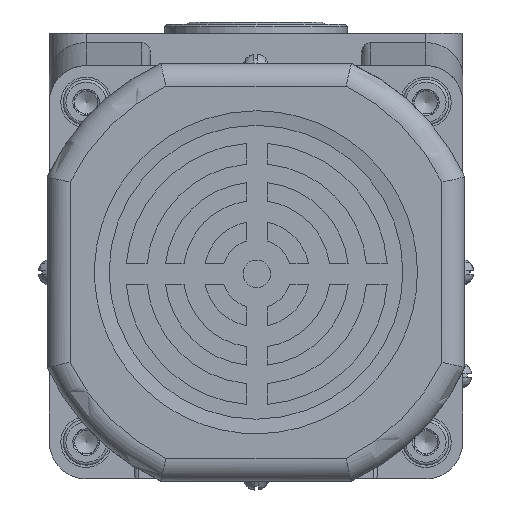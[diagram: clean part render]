
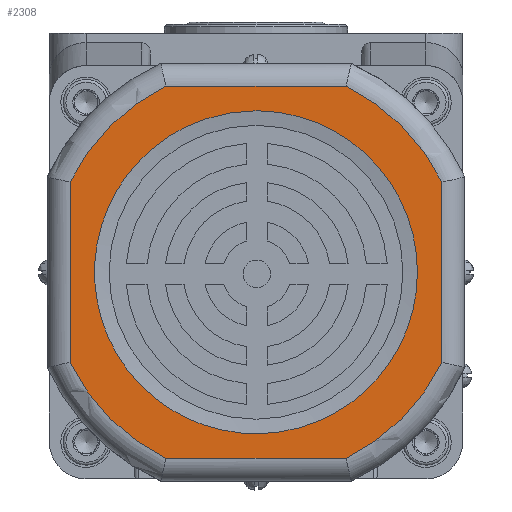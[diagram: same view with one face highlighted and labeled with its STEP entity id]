
A CAD part, front view. The second image highlights one B-rep face of the part: STEP entity #2308.
In plain terms, the highlighted planar face has unit normal (0, -1, 0).
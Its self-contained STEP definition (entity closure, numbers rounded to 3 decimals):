
#170=B_SPLINE_CURVE_WITH_KNOTS('',3,(#20264,#20265,#20266,#20267,#20268,
#20269,#20270,#20271,#20272,#20273,#20274,#20275,#20276,#20277,#20278,#20279,
#20280,#20281,#20282,#20283,#20284,#20285,#20286,#20287,#20288,#20289,#20290,
#20291,#20292,#20293,#20294,#20295,#20296,#20297),.UNSPECIFIED.,.T.,.F.,
(2,2,2,2,2,2,2,2,2,2,2,2,2,2,2,2,2,2,2),(-0.063,0.,0.063,0.125,0.188,
0.25,0.313,0.375,0.438,0.5,0.563,0.625,0.688,0.75,0.813,0.875,0.938,
1.,1.063),.UNSPECIFIED.);
#580=FACE_BOUND('',#4265,.T.);
#581=FACE_BOUND('',#4266,.T.);
#2308=ADVANCED_FACE('',(#580,#581),#3051,.T.);
#3051=PLANE('',#14476);
#4265=EDGE_LOOP('',(#5638));
#4266=EDGE_LOOP('',(#5639,#5640,#5641,#5642,#5643,#5644,#5645,#5646));
#5638=ORIENTED_EDGE('',*,*,#10082,.F.);
#5639=ORIENTED_EDGE('',*,*,#10077,.T.);
#5640=ORIENTED_EDGE('',*,*,#10071,.T.);
#5641=ORIENTED_EDGE('',*,*,#10078,.T.);
#5642=ORIENTED_EDGE('',*,*,#10059,.T.);
#5643=ORIENTED_EDGE('',*,*,#10075,.T.);
#5644=ORIENTED_EDGE('',*,*,#10063,.T.);
#5645=ORIENTED_EDGE('',*,*,#10081,.T.);
#5646=ORIENTED_EDGE('',*,*,#10067,.T.);
#8810=VERTEX_POINT('',#20140);
#8812=VERTEX_POINT('',#20143);
#8814=VERTEX_POINT('',#20171);
#8816=VERTEX_POINT('',#20174);
#8818=VERTEX_POINT('',#20202);
#8820=VERTEX_POINT('',#20205);
#8822=VERTEX_POINT('',#20233);
#8824=VERTEX_POINT('',#20236);
#8826=VERTEX_POINT('',#20298);
#10059=EDGE_CURVE('',#8812,#8810,#13488,.T.);
#10063=EDGE_CURVE('',#8816,#8814,#13490,.T.);
#10067=EDGE_CURVE('',#8820,#8818,#13492,.T.);
#10071=EDGE_CURVE('',#8824,#8822,#13494,.T.);
#10075=EDGE_CURVE('',#8810,#8816,#11676,.T.);
#10077=EDGE_CURVE('',#8818,#8824,#11678,.T.);
#10078=EDGE_CURVE('',#8822,#8812,#11679,.T.);
#10081=EDGE_CURVE('',#8814,#8820,#11682,.T.);
#10082=EDGE_CURVE('',#8826,#8826,#170,.T.);
#11676=LINE('',#20253,#12580);
#11678=LINE('',#20256,#12582);
#11679=LINE('',#20258,#12583);
#11682=LINE('',#20262,#12586);
#12580=VECTOR('',#16282,1.);
#12582=VECTOR('',#16286,1.);
#12583=VECTOR('',#16289,1.);
#12586=VECTOR('',#16294,1.);
#13488=CIRCLE('',#14460,45.);
#13490=CIRCLE('',#14463,45.);
#13492=CIRCLE('',#14466,45.);
#13494=CIRCLE('',#14469,45.);
#14460=AXIS2_PLACEMENT_3D('',#20142,#16257,#16258);
#14463=AXIS2_PLACEMENT_3D('',#20173,#16263,#16264);
#14466=AXIS2_PLACEMENT_3D('',#20204,#16269,#16270);
#14469=AXIS2_PLACEMENT_3D('',#20235,#16275,#16276);
#14476=AXIS2_PLACEMENT_3D('',#20299,#16297,#16298);
#16257=DIRECTION('',(0.,-1.,0.));
#16258=DIRECTION('',(0.,0.,1.));
#16263=DIRECTION('',(0.,-1.,0.));
#16264=DIRECTION('',(0.,0.,1.));
#16269=DIRECTION('',(0.,-1.,0.));
#16270=DIRECTION('',(0.,0.,1.));
#16275=DIRECTION('',(0.,-1.,0.));
#16276=DIRECTION('',(0.,0.,1.));
#16282=DIRECTION('',(-1.,0.,0.));
#16286=DIRECTION('',(1.,0.,0.));
#16289=DIRECTION('',(0.,0.,1.));
#16294=DIRECTION('',(0.,0.,-1.));
#16297=DIRECTION('',(0.,-1.,0.));
#16298=DIRECTION('',(0.,0.,1.));
#20140=CARTESIAN_POINT('',(19.615,-260.5,-11.5));
#20142=CARTESIAN_POINT('',(0.,-260.5,-52.));
#20143=CARTESIAN_POINT('',(40.5,-260.5,-32.385));
#20171=CARTESIAN_POINT('',(-40.5,-260.5,-32.385));
#20173=CARTESIAN_POINT('',(0.,-260.5,-52.));
#20174=CARTESIAN_POINT('',(-19.615,-260.5,-11.5));
#20202=CARTESIAN_POINT('',(-19.615,-260.5,-92.5));
#20204=CARTESIAN_POINT('',(0.,-260.5,-52.));
#20205=CARTESIAN_POINT('',(-40.5,-260.5,-71.615));
#20233=CARTESIAN_POINT('',(40.5,-260.5,-71.615));
#20235=CARTESIAN_POINT('',(0.,-260.5,-52.));
#20236=CARTESIAN_POINT('',(19.615,-260.5,-92.5));
#20253=CARTESIAN_POINT('',(-35.157,-260.5,-11.5));
#20256=CARTESIAN_POINT('',(-35.157,-260.5,-92.5));
#20258=CARTESIAN_POINT('',(40.5,-260.5,-52.));
#20262=CARTESIAN_POINT('',(-40.5,-260.5,-52.));
#20264=CARTESIAN_POINT('',(4.602,-260.5,-16.843));
#20265=CARTESIAN_POINT('',(-4.602,-260.5,-16.843));
#20266=CARTESIAN_POINT('',(-9.202,-260.5,-17.758));
#20267=CARTESIAN_POINT('',(-17.706,-260.5,-21.28));
#20268=CARTESIAN_POINT('',(-21.606,-260.5,-23.886));
#20269=CARTESIAN_POINT('',(-28.114,-260.5,-30.394));
#20270=CARTESIAN_POINT('',(-30.72,-260.5,-34.294));
#20271=CARTESIAN_POINT('',(-34.242,-260.5,-42.798));
#20272=CARTESIAN_POINT('',(-35.157,-260.5,-47.398));
#20273=CARTESIAN_POINT('',(-35.157,-260.5,-56.602));
#20274=CARTESIAN_POINT('',(-34.242,-260.5,-61.202));
#20275=CARTESIAN_POINT('',(-30.72,-260.5,-69.706));
#20276=CARTESIAN_POINT('',(-28.114,-260.5,-73.606));
#20277=CARTESIAN_POINT('',(-21.606,-260.5,-80.114));
#20278=CARTESIAN_POINT('',(-17.706,-260.5,-82.72));
#20279=CARTESIAN_POINT('',(-9.202,-260.5,-86.242));
#20280=CARTESIAN_POINT('',(-4.602,-260.5,-87.157));
#20281=CARTESIAN_POINT('',(4.602,-260.5,-87.157));
#20282=CARTESIAN_POINT('',(9.202,-260.5,-86.242));
#20283=CARTESIAN_POINT('',(17.706,-260.5,-82.72));
#20284=CARTESIAN_POINT('',(21.606,-260.5,-80.114));
#20285=CARTESIAN_POINT('',(28.114,-260.5,-73.606));
#20286=CARTESIAN_POINT('',(30.72,-260.5,-69.706));
#20287=CARTESIAN_POINT('',(34.242,-260.5,-61.202));
#20288=CARTESIAN_POINT('',(35.157,-260.5,-56.602));
#20289=CARTESIAN_POINT('',(35.157,-260.5,-47.398));
#20290=CARTESIAN_POINT('',(34.242,-260.5,-42.798));
#20291=CARTESIAN_POINT('',(30.72,-260.5,-34.294));
#20292=CARTESIAN_POINT('',(28.114,-260.5,-30.394));
#20293=CARTESIAN_POINT('',(21.606,-260.5,-23.886));
#20294=CARTESIAN_POINT('',(17.706,-260.5,-21.28));
#20295=CARTESIAN_POINT('',(9.202,-260.5,-17.758));
#20296=CARTESIAN_POINT('',(4.602,-260.5,-16.843));
#20297=CARTESIAN_POINT('',(-4.602,-260.5,-16.843));
#20298=CARTESIAN_POINT('',(0.,-260.5,-16.843));
#20299=CARTESIAN_POINT('',(-35.157,-260.5,-52.));
